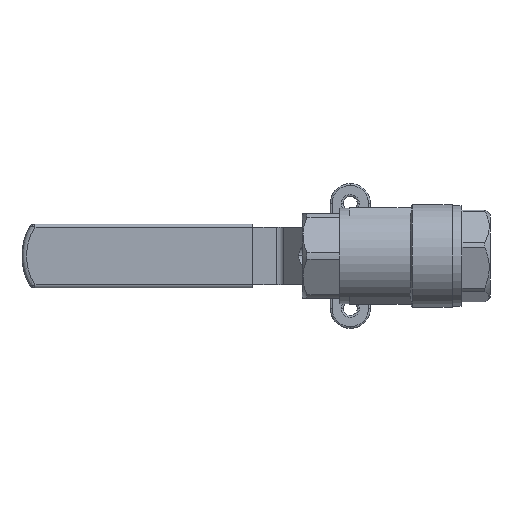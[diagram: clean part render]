
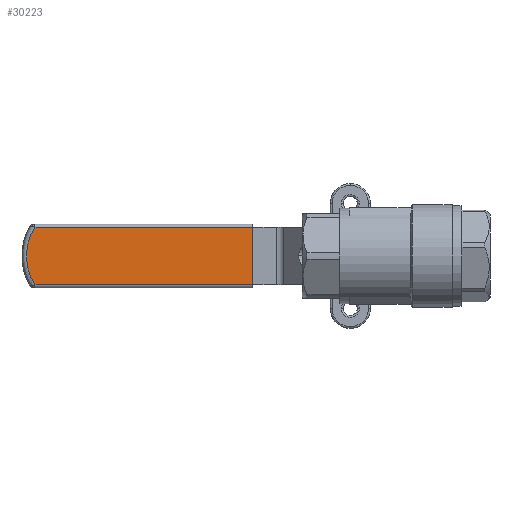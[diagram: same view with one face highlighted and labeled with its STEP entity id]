
A CAD part, front view. The second image highlights one B-rep face of the part: STEP entity #30223.
In plain terms, the highlighted planar face has unit normal (0, -1, 0).
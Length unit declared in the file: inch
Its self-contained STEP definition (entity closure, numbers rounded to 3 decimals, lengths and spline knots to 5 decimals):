
#275 = EDGE_CURVE ( 'NONE', #21783, #32199, #32763, .T. ) ;
#1666 = LINE ( 'NONE', #9795, #12400 ) ;
#1862 = VERTEX_POINT ( 'NONE', #16709 ) ;
#3679 = AXIS2_PLACEMENT_3D ( 'NONE', #16338, #20419, #48739 ) ;
#7530 = ORIENTED_EDGE ( 'NONE', *, *, #34752, .F. ) ;
#9795 = CARTESIAN_POINT ( 'NONE',  ( 1.6325, 0.92, -0.31 ) ) ;
#12115 = DIRECTION ( 'NONE',  ( 0., 0., -1. ) ) ;
#12168 = DIRECTION ( 'NONE',  ( 0., -1., 0. ) ) ;
#12400 = VECTOR ( 'NONE', #16443, 39.37008 ) ;
#12523 = LINE ( 'NONE', #45394, #30217 ) ;
#14323 = ORIENTED_EDGE ( 'NONE', *, *, #44966, .T. ) ;
#15172 = FACE_OUTER_BOUND ( 'NONE', #20672, .T. ) ;
#16165 = PLANE ( 'NONE',  #3679 ) ;
#16338 = CARTESIAN_POINT ( 'NONE',  ( 1.6325, 0.92, 0.31 ) ) ;
#16443 = DIRECTION ( 'NONE',  ( 1., 0., 0. ) ) ;
#16496 = CARTESIAN_POINT ( 'NONE',  ( 3.96161, 0.92, 0.31 ) ) ;
#16709 = CARTESIAN_POINT ( 'NONE',  ( 1.6325, 0.92, 0.31 ) ) ;
#18127 = EDGE_CURVE ( 'NONE', #1862, #22032, #34348, .T. ) ;
#19115 = CARTESIAN_POINT ( 'NONE',  ( 1.6325, 0.92, -0.31 ) ) ;
#20419 = DIRECTION ( 'NONE',  ( 0., -1., 0. ) ) ;
#20672 = EDGE_LOOP ( 'NONE', ( #14323, #35046, #7530, #45769 ) ) ;
#21783 = VERTEX_POINT ( 'NONE', #23000 ) ;
#22032 = VERTEX_POINT ( 'NONE', #19115 ) ;
#23000 = CARTESIAN_POINT ( 'NONE',  ( 3.96161, 0.92, -0.31 ) ) ;
#24888 = VECTOR ( 'NONE', #12115, 39.37008 ) ;
#30217 = VECTOR ( 'NONE', #41487, 39.37008 ) ;
#30223 = ADVANCED_FACE ( 'NONE', ( #15172 ), #16165, .T. ) ;
#32199 = VERTEX_POINT ( 'NONE', #16496 ) ;
#32763 = CIRCLE ( 'NONE', #36096, 0.5741 ) ;
#34348 = LINE ( 'NONE', #40257, #24888 ) ;
#34752 = EDGE_CURVE ( 'NONE', #1862, #32199, #12523, .T. ) ;
#35046 = ORIENTED_EDGE ( 'NONE', *, *, #275, .T. ) ;
#36096 = AXIS2_PLACEMENT_3D ( 'NONE', #36385, #12168, #40488 ) ;
#36385 = CARTESIAN_POINT ( 'NONE',  ( 3.4784, 0.92, 0. ) ) ;
#40257 = CARTESIAN_POINT ( 'NONE',  ( 1.6325, 0.92, 0.31 ) ) ;
#40488 = DIRECTION ( 'NONE',  ( 0., 0., -1. ) ) ;
#41487 = DIRECTION ( 'NONE',  ( 1., 0., 0. ) ) ;
#44966 = EDGE_CURVE ( 'NONE', #22032, #21783, #1666, .T. ) ;
#45394 = CARTESIAN_POINT ( 'NONE',  ( 1.6325, 0.92, 0.31 ) ) ;
#45769 = ORIENTED_EDGE ( 'NONE', *, *, #18127, .T. ) ;
#48739 = DIRECTION ( 'NONE',  ( 0., 0., -1. ) ) ;
